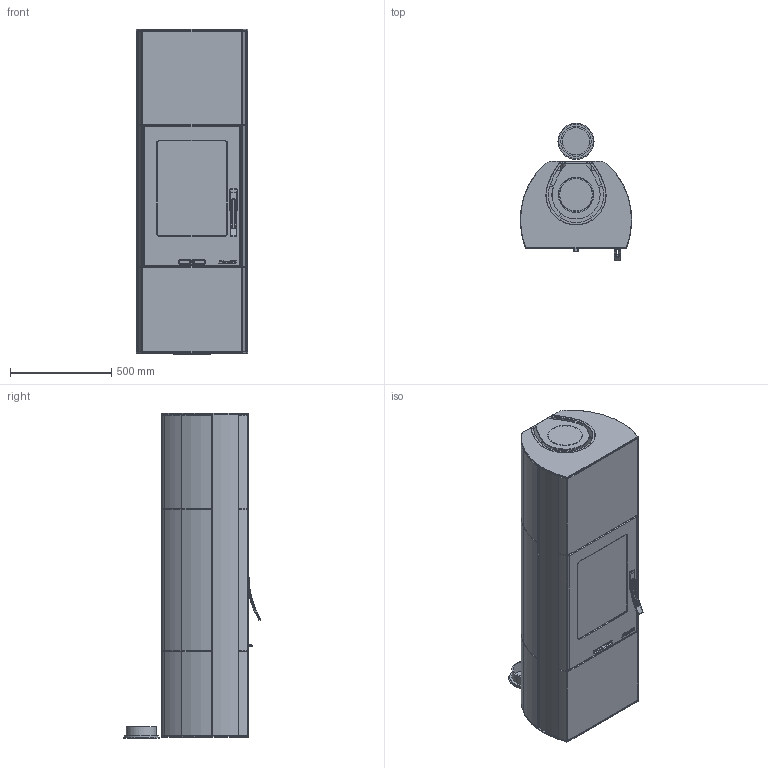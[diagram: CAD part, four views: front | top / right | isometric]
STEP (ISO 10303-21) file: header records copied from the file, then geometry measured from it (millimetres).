
FILE_DESCRIPTION( ( 'Unknown' ), '1' );
FILE_NAME( 'C:/Documents and Settings/haandersr/Application Data/Unigraphics Solutions/Solid Edge/Insight/insight/Insight/interior models/H35T Assembly Glass Top.stp', 'Unknown', ( 'Unknown' ), ( 'Unknown' ), 'PSStep 10.1', 'Unknown', ' ' );
FILE_SCHEMA( ( 'AUTOMOTIVE_DESIGN { 1 0 10303 214 1 1 1 1 }' ) );
Length unit declared in the file: millimetre
Products named in the file (28): Assem1; Glass H30; Connection; Lid; Vermiculite H30; Fire H30; Foot H35T; Rear H35TG; Side Glass H35T; Plate For Sideglass H35T; Inside Shielding H35; Side Glass H35; Glass Top H35; Bottom Cast Iron H30; Insert H30; Rear Lid H34 H35; Lattice H34 H35; Lid Lattice H34 H35; Soapstone Set H35T
Bounding box: 549.63 x 679.26 x 1608 mm (x, y, z)
Volume: 559964824.4 mm3; surface area: 27921295.8 mm2
Topology: 56 solids, 56 shells, 4287 faces, 10575 edges, 6471 vertices
Faces by surface type: plane 1663, cylinder 1216, bspline 560, torus 346, extrusion 280, sphere 126, cone 96
Full cylindrical faces by diameter (mm): 2.382 x12, 65 x2, 118 x4, 120 x4, 134 x3, 150 x3, 160 x2, 168 x2, 170 x7, 175 x2, 178 x3, 180 x2
Entity records: 112088 total; most frequent: CARTESIAN_POINT 46701, ORIENTED_EDGE 10348, DIRECTION 9344, EDGE_CURVE 5174, AXIS2_PLACEMENT_3D 3448, VERTEX_POINT 3202, VECTOR 2448, LINE 2308
